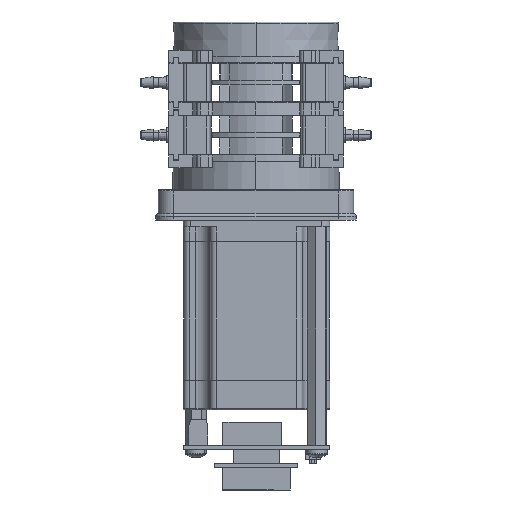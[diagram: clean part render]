
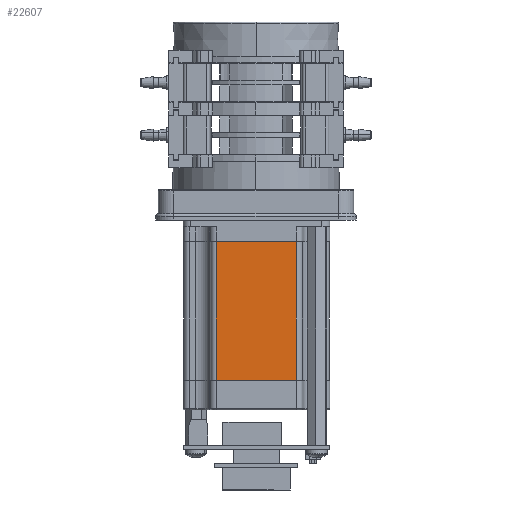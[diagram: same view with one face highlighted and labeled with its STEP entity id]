
A CAD part, left-side view. The second image highlights one B-rep face of the part: STEP entity #22607.
In plain terms, the highlighted planar face has unit normal (-1, 0, 0).
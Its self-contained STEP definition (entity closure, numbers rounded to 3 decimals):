
#127 = VERTEX_POINT ( 'NONE', #36004 ) ;
#579 = VERTEX_POINT ( 'NONE', #20250 ) ;
#725 = ORIENTED_EDGE ( 'NONE', *, *, #12837, .F. ) ;
#1091 = ORIENTED_EDGE ( 'NONE', *, *, #38709, .F. ) ;
#2106 = CARTESIAN_POINT ( 'NONE',  ( -28.354, -15.709, -41.405 ) ) ;
#2969 = LINE ( 'NONE', #26961, #25658 ) ;
#3642 = VERTEX_POINT ( 'NONE', #24726 ) ;
#4816 = CARTESIAN_POINT ( 'NONE',  ( -28.354, 15.431, 49.705 ) ) ;
#4873 = DIRECTION ( 'NONE',  ( 0., 0., 1. ) ) ;
#6957 = VECTOR ( 'NONE', #14142, 1000. ) ;
#7940 = FACE_OUTER_BOUND ( 'NONE', #39322, .T. ) ;
#11176 = VECTOR ( 'NONE', #33081, 1000. ) ;
#12801 = EDGE_CURVE ( 'NONE', #127, #3642, #19398, .T. ) ;
#12837 = EDGE_CURVE ( 'NONE', #127, #19706, #2969, .T. ) ;
#14038 = LINE ( 'NONE', #17762, #37757 ) ;
#14142 = DIRECTION ( 'NONE',  ( 0., 0., -1. ) ) ;
#15177 = LINE ( 'NONE', #4816, #6957 ) ;
#17145 = CARTESIAN_POINT ( 'NONE',  ( -28.354, -15.709, 49.705 ) ) ;
#17762 = CARTESIAN_POINT ( 'NONE',  ( -28.354, -15.709, -95.405 ) ) ;
#19398 = LINE ( 'NONE', #2106, #11176 ) ;
#19706 = VERTEX_POINT ( 'NONE', #28099 ) ;
#19973 = ORIENTED_EDGE ( 'NONE', *, *, #12801, .T. ) ;
#20250 = CARTESIAN_POINT ( 'NONE',  ( -28.354, 15.431, -95.405 ) ) ;
#22607 = ADVANCED_FACE ( 'NONE', ( #7940 ), #23218, .T. ) ;
#23218 = PLANE ( 'NONE',  #39641 ) ;
#23349 = DIRECTION ( 'NONE',  ( -1., 0., 0. ) ) ;
#24726 = CARTESIAN_POINT ( 'NONE',  ( -28.354, 15.431, -41.405 ) ) ;
#25658 = VECTOR ( 'NONE', #36359, 1000. ) ;
#26961 = CARTESIAN_POINT ( 'NONE',  ( -28.354, -15.709, 49.705 ) ) ;
#28099 = CARTESIAN_POINT ( 'NONE',  ( -28.354, -15.709, -95.405 ) ) ;
#33081 = DIRECTION ( 'NONE',  ( 0., 1., 0. ) ) ;
#36004 = CARTESIAN_POINT ( 'NONE',  ( -28.354, -15.709, -41.405 ) ) ;
#36328 = DIRECTION ( 'NONE',  ( 0., 1., 0. ) ) ;
#36359 = DIRECTION ( 'NONE',  ( 0., 0., -1. ) ) ;
#36905 = EDGE_CURVE ( 'NONE', #3642, #579, #15177, .T. ) ;
#37757 = VECTOR ( 'NONE', #36328, 1000. ) ;
#38709 = EDGE_CURVE ( 'NONE', #19706, #579, #14038, .T. ) ;
#39322 = EDGE_LOOP ( 'NONE', ( #19973, #39613, #1091, #725 ) ) ;
#39613 = ORIENTED_EDGE ( 'NONE', *, *, #36905, .T. ) ;
#39641 = AXIS2_PLACEMENT_3D ( 'NONE', #17145, #23349, #4873 ) ;
